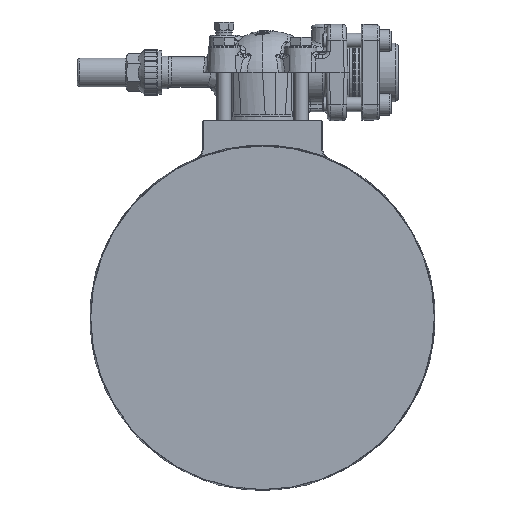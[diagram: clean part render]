
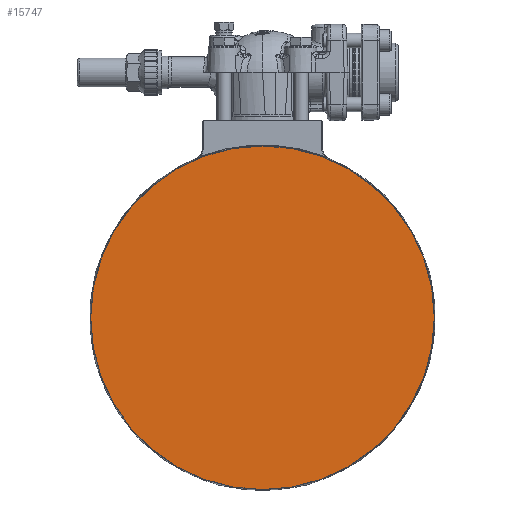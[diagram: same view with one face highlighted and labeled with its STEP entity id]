
A CAD part, left-side view. The second image highlights one B-rep face of the part: STEP entity #15747.
In plain terms, the highlighted planar face has unit normal (-1, 0, 0) as drawn and (1, 0, 0) by its records, which use the part's own axes.
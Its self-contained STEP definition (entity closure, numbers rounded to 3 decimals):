
#12457=PLANE('',#54597);
#15747=ADVANCED_FACE('',(#18423),#12457,.F.);
#18423=FACE_OUTER_BOUND('',#21166,.T.);
#21166=EDGE_LOOP('',(#36988,#36989));
#36988=ORIENTED_EDGE('',*,*,#49203,.T.);
#36989=ORIENTED_EDGE('',*,*,#49204,.T.);
#44153=VERTEX_POINT('',#96770);
#44154=VERTEX_POINT('',#96771);
#49203=EDGE_CURVE('',#44153,#44154,#52171,.T.);
#49204=EDGE_CURVE('',#44154,#44153,#52172,.T.);
#52171=CIRCLE('',#54595,142.9);
#52172=CIRCLE('',#54596,142.9);
#54595=AXIS2_PLACEMENT_3D('',#96769,#61208,#61209);
#54596=AXIS2_PLACEMENT_3D('',#96772,#61210,#61211);
#54597=AXIS2_PLACEMENT_3D('',#96773,#61212,#61213);
#61208=DIRECTION('',(1.,0.,0.));
#61209=DIRECTION('',(0.,0.,1.));
#61210=DIRECTION('',(1.,0.,0.));
#61211=DIRECTION('',(0.,0.,1.));
#61212=DIRECTION('',(-1.,0.,0.));
#61213=DIRECTION('',(0.,-1.,0.));
#96769=CARTESIAN_POINT('',(1.,0.,0.));
#96770=CARTESIAN_POINT('',(1.,142.9,0.));
#96771=CARTESIAN_POINT('',(1.,-142.9,0.));
#96772=CARTESIAN_POINT('',(1.,0.,0.));
#96773=CARTESIAN_POINT('',(1.,201.535,-222.821));
